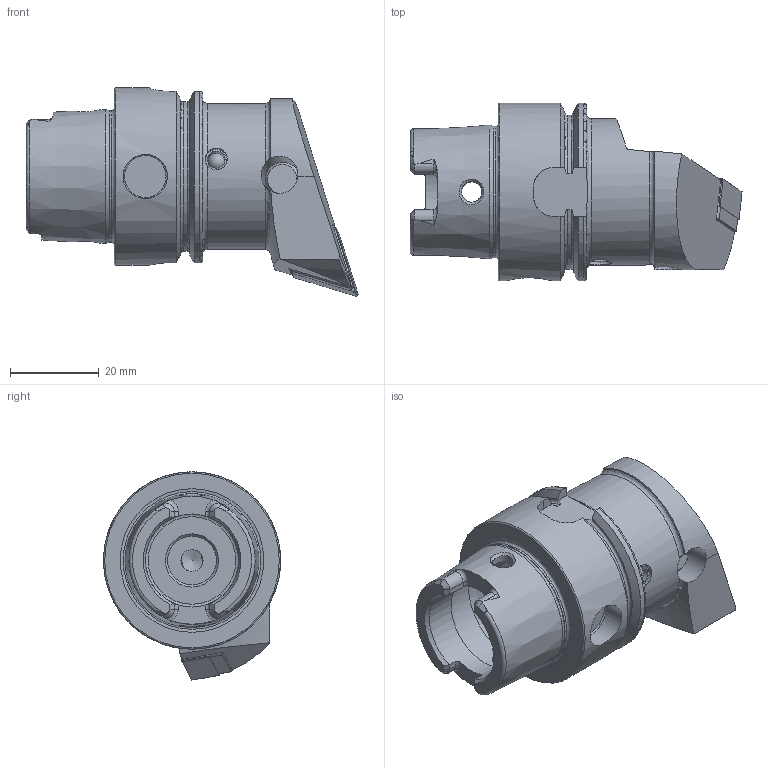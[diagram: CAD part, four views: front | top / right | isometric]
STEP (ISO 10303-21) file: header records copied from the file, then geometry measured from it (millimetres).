
FILE_DESCRIPTION (( 'STEP AP214' ), '1' );
FILE_NAME ('HA4.PDF.RHA.055.STEP', '2021-06-21T08:02:47', ( '' ), ( '' ), 'SwSTEP 2.0', 'SolidWorks 2017', '' );
FILE_SCHEMA (( 'AUTOMOTIVE_DESIGN' ));
Length unit declared in the file: millimetre
Products named in the file (8): WDF-ER3.101.000_A; KVT_MB_600_050; DNMG150604; WDF-ER2.101.003_A; WCD-ER4.101.017_A; HA4-PDF.RHA.055_A; HA4.PDF.RHA.055; WCD-ER1.101.000
Assembly tree (7 placements, depth 2):
  HA4.PDF.RHA.055
    HA4-PDF.RHA.055_A
    KVT_MB_600_050
    DNMG150604
    WDF-ER3.101.000_A
    WCD-ER1.101.000
    WCD-ER4.101.017_A
    WDF-ER2.101.003_A
Bounding box: 74.9 x 40 x 47 mm (x, y, z)
Volume: 43549.3 mm3; surface area: 16761.3 mm2
Topology: 8 solids, 8 shells, 294 faces, 769 edges, 482 vertices
Faces by surface type: plane 118, cylinder 68, cone 61, torus 31, bspline 15, sphere 1
Full cylindrical faces by diameter (mm): 3.55 x1, 4 x1, 4.2 x3, 4.6 x2, 4.7 x1, 5 x4, 5.16 x1, 6.4 x2, 7 x1, 7.9 x2, 8 x1, 8.4 x1, 10 x1, 11 x1, 12.5 x1, 21 x2, 25.5 x1, 29.707 x1, 33 x1, 40 x1
Entity records: 11069 total; most frequent: CARTESIAN_POINT 3797, ORIENTED_EDGE 1330, DIRECTION 1263, EDGE_CURVE 665, AXIS2_PLACEMENT_3D 500, VERTEX_POINT 454, EDGE_LOOP 377, FACE_OUTER_BOUND 334
